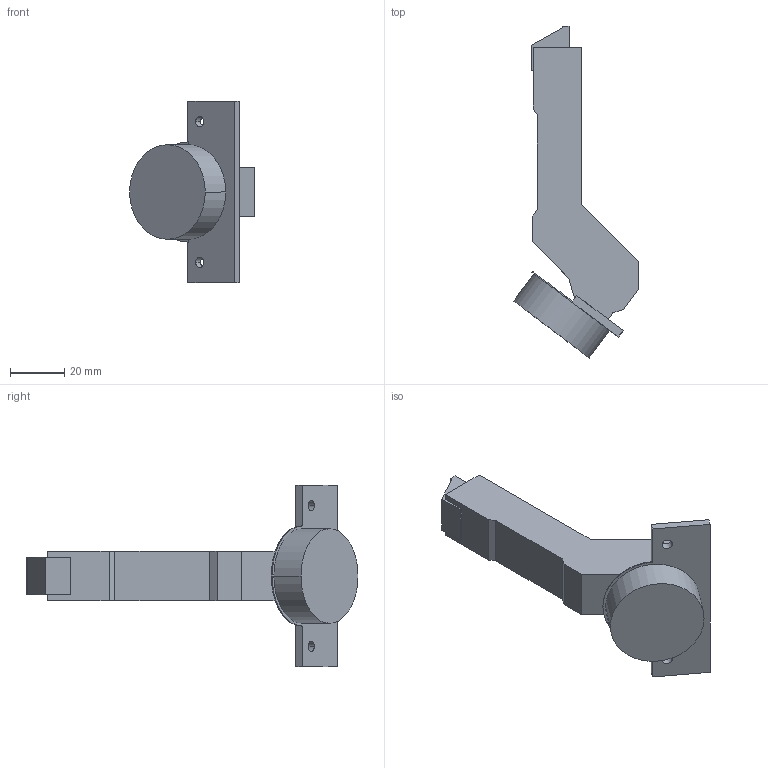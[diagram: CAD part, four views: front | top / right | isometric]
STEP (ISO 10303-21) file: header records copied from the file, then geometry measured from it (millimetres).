
FILE_DESCRIPTION (( 'STEP AP214' ), '1' );
FILE_NAME ('Scharnier TT Click-on 110°_+37° H_BB, einliegend.step', '2010-12-13T10:21:54', ( 'grass' ), ( '' ), 'SwSTEP 2.0', 'SolidWorks 2010', '' );
FILE_SCHEMA (( 'AUTOMOTIVE_DESIGN' ));
Length unit declared in the file: millimetre
Products named in the file (1): Scharnier TT Click-on 110°_+37° H_BB, einliegend
Bounding box: 46.13 x 122.73 x 67 mm (x, y, z)
Volume: 53765.8 mm3; surface area: 14235.4 mm2
Topology: 1 solids, 1 shells, 51 faces, 135 edges, 90 vertices
Faces by surface type: plane 37, cylinder 14
Entity records: 1619 total; most frequent: CARTESIAN_POINT 277, ORIENTED_EDGE 270, DIRECTION 267, EDGE_CURVE 135, VECTOR 107, LINE 107, VERTEX_POINT 90, AXIS2_PLACEMENT_3D 80
